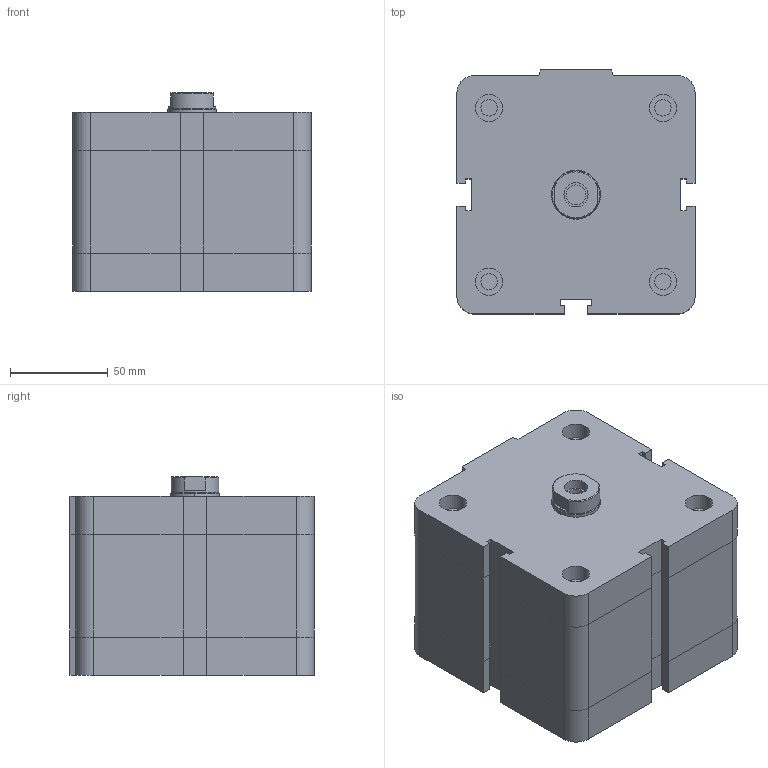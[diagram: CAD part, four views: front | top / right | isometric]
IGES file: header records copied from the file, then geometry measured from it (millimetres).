
Global section: file name: No Iges File Name specified; native system: Autodesk Inventor 2009; preprocessor: AutoDesk Inventor Iges Exporter R2009; author: rivolro1; date: 20081219.153508; units: millimetre
Bounding box: 122 x 125 x 101.5 mm (x, y, z)
Volume: 1321224.8 mm3; surface area: 95708.1 mm2
Topology: 2 solids, 2 shells, 187 faces, 410 edges, 248 vertices
Faces by surface type: plane 112, bspline 39, revolution 16, cylinder 16, cone 4
